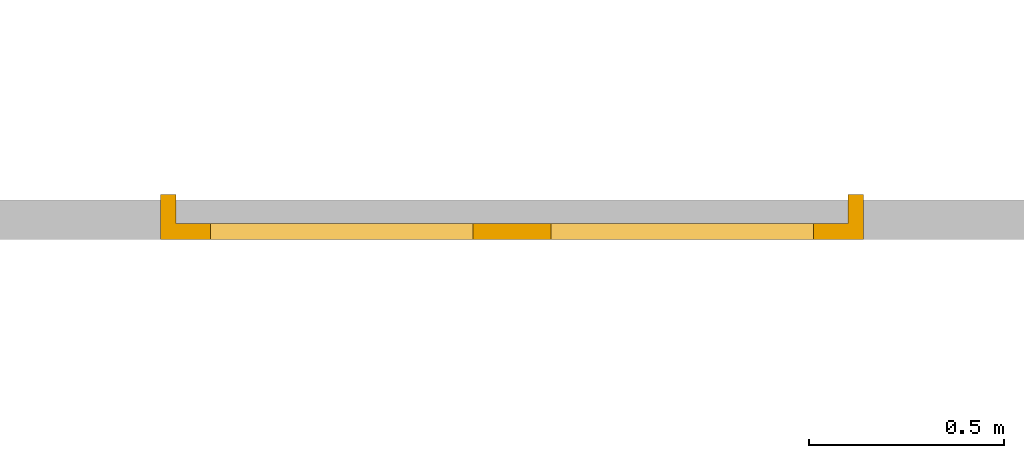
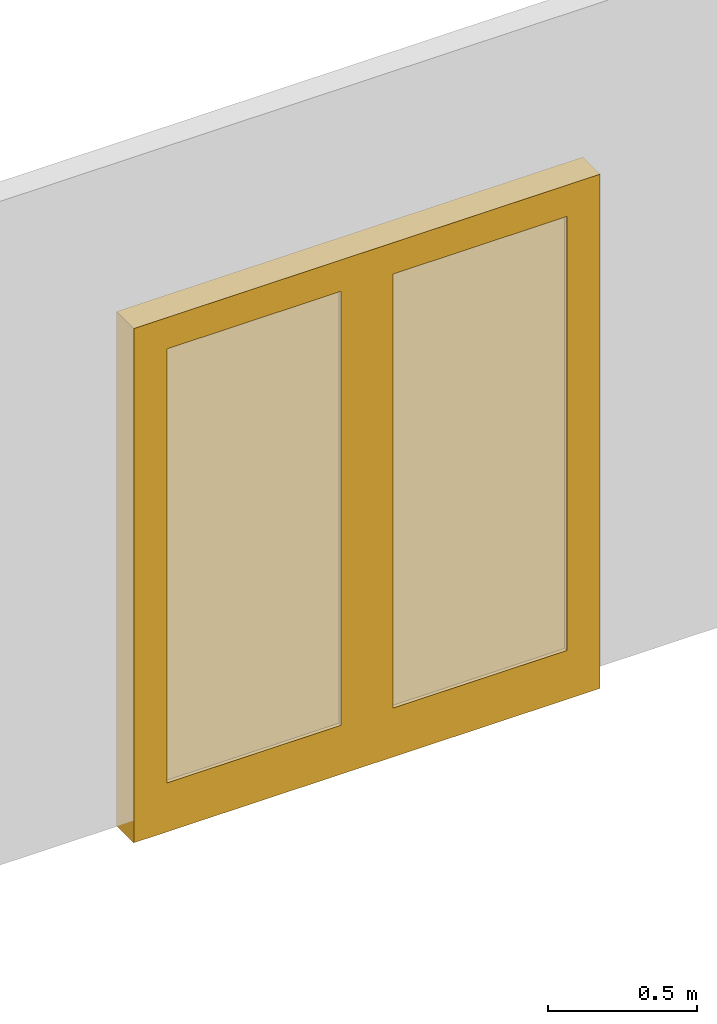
# One storey, part 9 of 22: 1 door.
"""IFC2X3 building model written with IfcOpenShell, lengths in millimetres."""

from ifc_helpers import new_model, entity, si_unit, converted_unit, derived_unit, direction, frame, origin, place, context, subcontext, project, spatial, face_set, surface_model, source, transform, mapped, material, material_list, type_object, type_shapes, element, save


model = new_model("IFC2X3")

# Units and contexts
model_context = context("Model", 3, precision=0.01, world=origin(), true_north=direction((6.12303176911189e-17, 1.0)))
body_context = subcontext(model_context, "Body", "Model", "MODEL_VIEW")
ifc_project = project(units=[si_unit("LENGTHUNIT", "METRE", prefix="MILLI"), si_unit("AREAUNIT", "SQUARE_METRE"), si_unit("VOLUMEUNIT", "CUBIC_METRE"), converted_unit("PLANEANGLEUNIT", "DEGREE", entity("IfcRatioMeasure", 0.0174532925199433), si_unit("PLANEANGLEUNIT", "RADIAN"), dimensions=[0, 0, 0, 0, 0, 0, 0]), si_unit("MASSUNIT", "GRAM", prefix="KILO"), derived_unit("MASSDENSITYUNIT", [(si_unit("MASSUNIT", "GRAM", prefix="KILO"), 1), (si_unit("LENGTHUNIT", "METRE"), -3)]), si_unit("TIMEUNIT", "SECOND"), si_unit("FREQUENCYUNIT", "HERTZ"), si_unit("THERMODYNAMICTEMPERATUREUNIT", "DEGREE_CELSIUS"), derived_unit("THERMALTRANSMITTANCEUNIT", [(si_unit("MASSUNIT", "GRAM", prefix="KILO"), 1), (si_unit("THERMODYNAMICTEMPERATUREUNIT", "KELVIN"), -1), (si_unit("TIMEUNIT", "SECOND"), -3)]), derived_unit("VOLUMETRICFLOWRATEUNIT", [(si_unit("LENGTHUNIT", "METRE"), 3), (si_unit("TIMEUNIT", "SECOND"), -1)]), si_unit("ELECTRICCURRENTUNIT", "AMPERE"), si_unit("ELECTRICVOLTAGEUNIT", "VOLT"), si_unit("POWERUNIT", "WATT"), si_unit("FORCEUNIT", "NEWTON", prefix="KILO"), si_unit("ILLUMINANCEUNIT", "LUX"), si_unit("LUMINOUSFLUXUNIT", "LUMEN"), si_unit("LUMINOUSINTENSITYUNIT", "CANDELA"), derived_unit("USERDEFINED", [(si_unit("MASSUNIT", "GRAM", prefix="KILO"), -1), (si_unit("LENGTHUNIT", "METRE"), -2), (si_unit("TIMEUNIT", "SECOND"), 3), (si_unit("LUMINOUSFLUXUNIT", "LUMEN"), 1)]), derived_unit("LINEARVELOCITYUNIT", [(si_unit("LENGTHUNIT", "METRE"), 1), (si_unit("TIMEUNIT", "SECOND"), -1)]), si_unit("PRESSUREUNIT", "PASCAL"), derived_unit("USERDEFINED", [(si_unit("LENGTHUNIT", "METRE"), -2), (si_unit("MASSUNIT", "GRAM", prefix="KILO"), 1), (si_unit("TIMEUNIT", "SECOND"), -2)])], contexts=[model_context])

# Site, building, storey
site_placement = place(None, origin())
site = spatial("IfcSite", under=ifc_project, at=site_placement, Name="Default", CompositionType="ELEMENT")
building_placement = place(site_placement, origin())
building = spatial("IfcBuilding", under=site, at=building_placement, CompositionType="ELEMENT")
storey_placement = place(building_placement, frame((0.0, 0.0, -3000.0)))
storey = spatial("IfcBuildingStorey", under=building, at=storey_placement, Name="-2. Story", CompositionType="ELEMENT", Elevation=-3000.0)

# Door
ifc_material_1 = material(Name="Paint - Titanium White")
ifc_material_2 = material(Name="Glass - Clear Fast")
ifc_material_list_1 = material_list([ifc_material_1, ifc_material_2])
ifc_material_list_2 = material_list([ifc_material_1, ifc_material_2])
door_style = type_object("IfcDoorStyle", Name="DOO - 002", ConstructionType="NOTDEFINED", OperationType="DOUBLE_DOOR_SINGLE_SWING", ParameterTakesPrecedence=False, Sizeable=False, material=ifc_material_list_2)
shared_shape = source(origin(), body_context, "Body", "SurfaceModel", [
    surface_model("IfcFaceBasedSurfaceModel", [(101610.9898575, 74543.1569014, -3000.0), (101610.9898575, 74543.1569014, -940.0), (101610.9898575, 74618.1569014, -940.0), (101610.9898575, 74618.1569014, -3000.0), (101622.9898575, 74543.1569014, -940.0), (101610.9898575, 74543.1569014, -940.0), (101610.9898575, 74543.1569014, -3000.0), (101622.9898575, 74543.1569014, -3000.0), (101622.9898575, 74543.1569014, -940.0), (101622.9898575, 74503.1569014, -940.0), (101650.9898575, 74503.1569014, -940.0), (101650.9898575, 74618.1569014, -940.0), (101610.9898575, 74618.1569014, -940.0), (101610.9898575, 74543.1569014, -940.0), (101610.9898575, 74618.1569014, -3000.0), (101610.9898575, 74618.1569014, -940.0), (101650.9898575, 74618.1569014, -940.0), (101650.9898575, 74618.1569014, -3000.0), (101622.9898575, 74543.1569014, -3000.0), (101610.9898575, 74543.1569014, -3000.0), (101610.9898575, 74618.1569014, -3000.0), (101650.9898575, 74618.1569014, -3000.0), (101650.9898575, 74503.1569014, -3000.0), (101622.9898575, 74503.1569014, -3000.0), (101622.9898575, 74503.1569014, -940.0), (101622.9898575, 74543.1569014, -940.0), (101622.9898575, 74543.1569014, -3000.0), (101622.9898575, 74503.1569014, -3000.0), (101622.9898575, 74503.1569014, -940.0), (101622.9898575, 74503.1569014, -3000.0), (101650.9898575, 74503.1569014, -3000.0), (101650.9898575, 74503.1569014, -940.0), (101650.9898575, 74503.1569014, -3000.0), (101650.9898575, 74618.1569014, -3000.0), (101650.9898575, 74618.1569014, -940.0), (101650.9898575, 74503.1569014, -940.0), (99878.9898575, 74543.1569014, -940.0), (99890.9898575, 74543.1569014, -940.0), (99890.9898575, 74618.1569014, -940.0), (99850.9898575, 74618.1569014, -940.0), (99850.9898575, 74503.1569014, -940.0), (99878.9898575, 74503.1569014, -940.0), (99890.9898575, 74543.1569014, -940.0), (99878.9898575, 74543.1569014, -940.0), (99878.9898575, 74543.1569014, -3000.0), (99890.9898575, 74543.1569014, -3000.0), (99890.9898575, 74543.1569014, -940.0), (99890.9898575, 74543.1569014, -3000.0), (99890.9898575, 74618.1569014, -3000.0), (99890.9898575, 74618.1569014, -940.0), (99850.9898575, 74618.1569014, -940.0), (99890.9898575, 74618.1569014, -940.0), (99890.9898575, 74618.1569014, -3000.0), (99850.9898575, 74618.1569014, -3000.0), (99850.9898575, 74503.1569014, -940.0), (99850.9898575, 74618.1569014, -940.0), (99850.9898575, 74618.1569014, -3000.0), (99850.9898575, 74503.1569014, -3000.0), (99878.9898575, 74503.1569014, -3000.0), (99878.9898575, 74503.1569014, -940.0), (99850.9898575, 74503.1569014, -940.0), (99850.9898575, 74503.1569014, -3000.0), (99878.9898575, 74543.1569014, -940.0), (99878.9898575, 74503.1569014, -940.0), (99878.9898575, 74503.1569014, -3000.0), (99878.9898575, 74543.1569014, -3000.0), (99878.9898575, 74543.1569014, -3000.0), (99878.9898575, 74503.1569014, -3000.0), (99850.9898575, 74503.1569014, -3000.0), (99850.9898575, 74618.1569014, -3000.0), (99890.9898575, 74618.1569014, -3000.0), (99890.9898575, 74543.1569014, -3000.0), (101622.9898575, 74503.1569014, -928.0), (101622.9898575, 74503.1569014, -940.0), (101650.9898575, 74503.1569014, -940.0), (101650.9898575, 74503.1569014, -900.0), (99850.9898575, 74503.1569014, -900.0), (99850.9898575, 74503.1569014, -940.0), (99878.9898575, 74503.1569014, -940.0), (99878.9898575, 74503.1569014, -928.0), (101622.9898575, 74503.1569014, -940.0), (101622.9898575, 74503.1569014, -928.0), (101622.9898575, 74543.1569014, -928.0), (101622.9898575, 74543.1569014, -940.0), (101622.9898575, 74543.1569014, -940.0), (101610.9898575, 74543.1569014, -940.0), (101610.9898575, 74618.1569014, -940.0), (101650.9898575, 74618.1569014, -940.0), (101650.9898575, 74503.1569014, -940.0), (101622.9898575, 74503.1569014, -940.0), (101650.9898575, 74503.1569014, -940.0), (101650.9898575, 74618.1569014, -940.0), (101650.9898575, 74618.1569014, -900.0), (101650.9898575, 74503.1569014, -900.0), (101650.9898575, 74503.1569014, -900.0), (101650.9898575, 74618.1569014, -900.0), (99850.9898575, 74618.1569014, -900.0), (99850.9898575, 74503.1569014, -900.0), (99850.9898575, 74503.1569014, -900.0), (99850.9898575, 74618.1569014, -900.0), (99850.9898575, 74618.1569014, -940.0), (99850.9898575, 74503.1569014, -940.0), (99878.9898575, 74543.1569014, -940.0), (99878.9898575, 74503.1569014, -940.0), (99850.9898575, 74503.1569014, -940.0), (99850.9898575, 74618.1569014, -940.0), (99890.9898575, 74618.1569014, -940.0), (99890.9898575, 74543.1569014, -940.0), (99878.9898575, 74503.1569014, -928.0), (99878.9898575, 74503.1569014, -940.0), (99878.9898575, 74543.1569014, -940.0), (99878.9898575, 74543.1569014, -928.0), (101622.9898575, 74503.1569014, -928.0), (99878.9898575, 74503.1569014, -928.0), (99878.9898575, 74543.1569014, -928.0), (101622.9898575, 74543.1569014, -928.0), (99878.9898575, 74543.1569014, -940.0), (99890.9898575, 74543.1569014, -940.0), (101610.9898575, 74543.1569014, -940.0), (101622.9898575, 74543.1569014, -940.0), (101622.9898575, 74543.1569014, -928.0), (99878.9898575, 74543.1569014, -928.0), (101610.9898575, 74543.1569014, -940.0), (99890.9898575, 74543.1569014, -940.0), (99890.9898575, 74618.1569014, -940.0), (101610.9898575, 74618.1569014, -940.0), (99890.9898575, 74618.1569014, -940.0), (99850.9898575, 74618.1569014, -940.0), (99850.9898575, 74618.1569014, -900.0), (101650.9898575, 74618.1569014, -900.0), (101650.9898575, 74618.1569014, -940.0), (101610.9898575, 74618.1569014, -940.0), (99878.9898575, 74503.1569014, -2800.0), (99878.9898575, 74543.1569014, -2800.0), (99978.9898575, 74543.1569014, -2800.0), (99978.9898575, 74503.1569014, -2800.0), (99878.9898575, 74503.1569014, -1028.0), (99878.9898575, 74543.1569014, -1028.0), (99878.9898575, 74543.1569014, -2800.0), (99878.9898575, 74503.1569014, -2800.0), (99878.9898575, 74543.1569014, -2800.0), (99878.9898575, 74543.1569014, -1028.0), (99978.9898575, 74543.1569014, -1028.0), (99978.9898575, 74543.1569014, -2800.0), (99978.9898575, 74503.1569014, -2800.0), (99978.9898575, 74543.1569014, -2800.0), (99978.9898575, 74543.1569014, -1028.0), (99978.9898575, 74503.1569014, -1028.0), (99878.9898575, 74503.1569014, -2800.0), (99978.9898575, 74503.1569014, -2800.0), (99978.9898575, 74503.1569014, -1028.0), (99878.9898575, 74503.1569014, -1028.0), (99978.9898575, 74503.1569014, -1028.0), (99978.9898575, 74543.1569014, -1028.0), (99878.9898575, 74543.1569014, -1028.0), (99878.9898575, 74503.1569014, -1028.0), (100750.9898575, 74503.1569014, -2800.0), (100750.9898575, 74543.1569014, -2800.0), (100750.9898575, 74543.1569014, -1028.0), (100750.9898575, 74503.1569014, -1028.0), (100650.9898575, 74503.1569014, -2800.0), (100650.9898575, 74543.1569014, -2800.0), (100750.9898575, 74543.1569014, -2800.0), (100750.9898575, 74503.1569014, -2800.0), (100750.9898575, 74543.1569014, -2800.0), (100650.9898575, 74543.1569014, -2800.0), (100650.9898575, 74543.1569014, -1028.0), (100750.9898575, 74543.1569014, -1028.0), (100750.9898575, 74503.1569014, -1028.0), (100750.9898575, 74543.1569014, -1028.0), (100650.9898575, 74543.1569014, -1028.0), (100650.9898575, 74503.1569014, -1028.0), (100750.9898575, 74503.1569014, -2800.0), (100750.9898575, 74503.1569014, -1028.0), (100650.9898575, 74503.1569014, -1028.0), (100650.9898575, 74503.1569014, -2800.0), (100650.9898575, 74503.1569014, -1028.0), (100650.9898575, 74543.1569014, -1028.0), (100650.9898575, 74543.1569014, -2800.0), (100650.9898575, 74503.1569014, -2800.0), (99878.9898575, 74503.1569014, -3000.0), (99878.9898575, 74543.1569014, -3000.0), (100750.9898575, 74543.1569014, -3000.0), (100750.9898575, 74503.1569014, -3000.0), (99878.9898575, 74503.1569014, -2800.0), (99878.9898575, 74543.1569014, -2800.0), (99878.9898575, 74543.1569014, -3000.0), (99878.9898575, 74503.1569014, -3000.0), (99878.9898575, 74543.1569014, -3000.0), (99878.9898575, 74543.1569014, -2800.0), (99978.9898575, 74543.1569014, -2800.0), (100650.9898575, 74543.1569014, -2800.0), (100750.9898575, 74543.1569014, -2800.0), (100750.9898575, 74543.1569014, -3000.0), (100750.9898575, 74503.1569014, -3000.0), (100750.9898575, 74543.1569014, -3000.0), (100750.9898575, 74543.1569014, -2800.0), (100750.9898575, 74503.1569014, -2800.0), (99878.9898575, 74503.1569014, -3000.0), (100750.9898575, 74503.1569014, -3000.0), (100750.9898575, 74503.1569014, -2800.0), (100650.9898575, 74503.1569014, -2800.0), (99978.9898575, 74503.1569014, -2800.0), (99878.9898575, 74503.1569014, -2800.0), (99978.9898575, 74503.1569014, -2800.0), (99978.9898575, 74543.1569014, -2800.0), (99878.9898575, 74543.1569014, -2800.0), (99878.9898575, 74503.1569014, -2800.0), (100650.9898575, 74503.1569014, -2800.0), (100650.9898575, 74543.1569014, -2800.0), (99978.9898575, 74543.1569014, -2800.0), (99978.9898575, 74503.1569014, -2800.0), (100750.9898575, 74503.1569014, -2800.0), (100750.9898575, 74543.1569014, -2800.0), (100650.9898575, 74543.1569014, -2800.0), (100650.9898575, 74503.1569014, -2800.0), (99878.9898575, 74503.1569014, -928.0), (99878.9898575, 74543.1569014, -928.0), (99878.9898575, 74543.1569014, -1028.0), (99878.9898575, 74503.1569014, -1028.0), (100750.9898575, 74503.1569014, -928.0), (100750.9898575, 74543.1569014, -928.0), (99878.9898575, 74543.1569014, -928.0), (99878.9898575, 74503.1569014, -928.0), (99878.9898575, 74543.1569014, -928.0), (100750.9898575, 74543.1569014, -928.0), (100750.9898575, 74543.1569014, -1028.0), (100650.9898575, 74543.1569014, -1028.0), (99978.9898575, 74543.1569014, -1028.0), (99878.9898575, 74543.1569014, -1028.0), (99878.9898575, 74503.1569014, -1028.0), (99878.9898575, 74543.1569014, -1028.0), (99978.9898575, 74543.1569014, -1028.0), (99978.9898575, 74503.1569014, -1028.0), (99878.9898575, 74503.1569014, -928.0), (99878.9898575, 74503.1569014, -1028.0), (99978.9898575, 74503.1569014, -1028.0), (100650.9898575, 74503.1569014, -1028.0), (100750.9898575, 74503.1569014, -1028.0), (100750.9898575, 74503.1569014, -928.0), (100750.9898575, 74503.1569014, -1028.0), (100750.9898575, 74543.1569014, -1028.0), (100750.9898575, 74543.1569014, -928.0), (100750.9898575, 74503.1569014, -928.0), (100650.9898575, 74503.1569014, -1028.0), (100650.9898575, 74543.1569014, -1028.0), (100750.9898575, 74543.1569014, -1028.0), (100750.9898575, 74503.1569014, -1028.0), (99978.9898575, 74503.1569014, -1028.0), (99978.9898575, 74543.1569014, -1028.0), (100650.9898575, 74543.1569014, -1028.0), (100650.9898575, 74503.1569014, -1028.0), (101622.9898575, 74503.1569014, -2800.0), (101522.9898575, 74503.1569014, -2800.0), (101522.9898575, 74543.1569014, -2800.0), (101622.9898575, 74543.1569014, -2800.0), (101622.9898575, 74503.1569014, -2800.0), (101622.9898575, 74503.1569014, -1028.0), (101522.9898575, 74503.1569014, -1028.0), (101522.9898575, 74503.1569014, -2800.0), (101522.9898575, 74503.1569014, -2800.0), (101522.9898575, 74503.1569014, -1028.0), (101522.9898575, 74543.1569014, -1028.0), (101522.9898575, 74543.1569014, -2800.0), (101622.9898575, 74543.1569014, -2800.0), (101522.9898575, 74543.1569014, -2800.0), (101522.9898575, 74543.1569014, -1028.0), (101622.9898575, 74543.1569014, -1028.0), (101622.9898575, 74503.1569014, -1028.0), (101622.9898575, 74503.1569014, -2800.0), (101622.9898575, 74543.1569014, -2800.0), (101622.9898575, 74543.1569014, -1028.0), (101522.9898575, 74503.1569014, -1028.0), (101622.9898575, 74503.1569014, -1028.0), (101622.9898575, 74543.1569014, -1028.0), (101522.9898575, 74543.1569014, -1028.0), (100750.9898575, 74503.1569014, -2800.0), (100750.9898575, 74503.1569014, -1028.0), (100750.9898575, 74543.1569014, -1028.0), (100750.9898575, 74543.1569014, -2800.0), (100750.9898575, 74503.1569014, -2800.0), (100850.9898575, 74503.1569014, -2800.0), (100850.9898575, 74503.1569014, -1028.0), (100750.9898575, 74503.1569014, -1028.0), (100750.9898575, 74503.1569014, -1028.0), (100850.9898575, 74503.1569014, -1028.0), (100850.9898575, 74543.1569014, -1028.0), (100750.9898575, 74543.1569014, -1028.0), (100750.9898575, 74543.1569014, -2800.0), (100750.9898575, 74543.1569014, -1028.0), (100850.9898575, 74543.1569014, -1028.0), (100850.9898575, 74543.1569014, -2800.0), (100850.9898575, 74503.1569014, -2800.0), (100750.9898575, 74503.1569014, -2800.0), (100750.9898575, 74543.1569014, -2800.0), (100850.9898575, 74543.1569014, -2800.0), (100850.9898575, 74503.1569014, -1028.0), (100850.9898575, 74503.1569014, -2800.0), (100850.9898575, 74543.1569014, -2800.0), (100850.9898575, 74543.1569014, -1028.0), (101622.9898575, 74503.1569014, -3000.0), (100750.9898575, 74503.1569014, -3000.0), (100750.9898575, 74543.1569014, -3000.0), (101622.9898575, 74543.1569014, -3000.0), (101622.9898575, 74503.1569014, -3000.0), (101622.9898575, 74503.1569014, -2800.0), (101522.9898575, 74503.1569014, -2800.0), (100850.9898575, 74503.1569014, -2800.0), (100750.9898575, 74503.1569014, -2800.0), (100750.9898575, 74503.1569014, -3000.0), (100750.9898575, 74503.1569014, -3000.0), (100750.9898575, 74503.1569014, -2800.0), (100750.9898575, 74543.1569014, -2800.0), (100750.9898575, 74543.1569014, -3000.0), (101622.9898575, 74543.1569014, -3000.0), (100750.9898575, 74543.1569014, -3000.0), (100750.9898575, 74543.1569014, -2800.0), (100850.9898575, 74543.1569014, -2800.0), (101522.9898575, 74543.1569014, -2800.0), (101622.9898575, 74543.1569014, -2800.0), (101622.9898575, 74503.1569014, -2800.0), (101622.9898575, 74503.1569014, -3000.0), (101622.9898575, 74543.1569014, -3000.0), (101622.9898575, 74543.1569014, -2800.0), (101522.9898575, 74503.1569014, -2800.0), (101622.9898575, 74503.1569014, -2800.0), (101622.9898575, 74543.1569014, -2800.0), (101522.9898575, 74543.1569014, -2800.0), (100850.9898575, 74503.1569014, -2800.0), (101522.9898575, 74503.1569014, -2800.0), (101522.9898575, 74543.1569014, -2800.0), (100850.9898575, 74543.1569014, -2800.0), (100750.9898575, 74503.1569014, -2800.0), (100850.9898575, 74503.1569014, -2800.0), (100850.9898575, 74543.1569014, -2800.0), (100750.9898575, 74543.1569014, -2800.0), (101622.9898575, 74503.1569014, -928.0), (101622.9898575, 74503.1569014, -1028.0), (101622.9898575, 74543.1569014, -1028.0), (101622.9898575, 74543.1569014, -928.0), (101622.9898575, 74503.1569014, -928.0), (100750.9898575, 74503.1569014, -928.0), (100750.9898575, 74503.1569014, -1028.0), (100850.9898575, 74503.1569014, -1028.0), (101522.9898575, 74503.1569014, -1028.0), (101622.9898575, 74503.1569014, -1028.0), (101622.9898575, 74503.1569014, -1028.0), (101522.9898575, 74503.1569014, -1028.0), (101522.9898575, 74543.1569014, -1028.0), (101622.9898575, 74543.1569014, -1028.0), (101622.9898575, 74543.1569014, -928.0), (101622.9898575, 74543.1569014, -1028.0), (101522.9898575, 74543.1569014, -1028.0), (100850.9898575, 74543.1569014, -1028.0), (100750.9898575, 74543.1569014, -1028.0), (100750.9898575, 74543.1569014, -928.0), (100750.9898575, 74503.1569014, -928.0), (101622.9898575, 74503.1569014, -928.0), (101622.9898575, 74543.1569014, -928.0), (100750.9898575, 74543.1569014, -928.0), (100750.9898575, 74503.1569014, -1028.0), (100750.9898575, 74503.1569014, -928.0), (100750.9898575, 74543.1569014, -928.0), (100750.9898575, 74543.1569014, -1028.0), (100850.9898575, 74503.1569014, -1028.0), (100750.9898575, 74503.1569014, -1028.0), (100750.9898575, 74543.1569014, -1028.0), (100850.9898575, 74543.1569014, -1028.0), (101522.9898575, 74503.1569014, -1028.0), (100850.9898575, 74503.1569014, -1028.0), (100850.9898575, 74543.1569014, -1028.0), (101522.9898575, 74543.1569014, -1028.0)], [face_set([[[0, 1, 2, 3]]]), face_set([[[4, 5, 6, 7]]]), face_set([[[8, 9, 10, 11, 12, 13]]]), face_set([[[14, 15, 16, 17]]]), face_set([[[18, 19, 20, 21, 22, 23]]]), face_set([[[24, 25, 26, 27]]]), face_set([[[28, 29, 30, 31]]]), face_set([[[32, 33, 34, 35]]]), face_set([[[36, 37, 38, 39, 40, 41]]]), face_set([[[42, 43, 44, 45]]]), face_set([[[46, 47, 48, 49]]]), face_set([[[50, 51, 52, 53]]]), face_set([[[54, 55, 56, 57]]]), face_set([[[58, 59, 60, 61]]]), face_set([[[62, 63, 64, 65]]]), face_set([[[66, 67, 68, 69, 70, 71]]]), face_set([[[72, 73, 74, 75, 76, 77, 78, 79]]]), face_set([[[80, 81, 82, 83]]]), face_set([[[84, 85, 86, 87, 88, 89]]]), face_set([[[90, 91, 92, 93]]]), face_set([[[94, 95, 96, 97]]]), face_set([[[98, 99, 100, 101]]]), face_set([[[102, 103, 104, 105, 106, 107]]]), face_set([[[108, 109, 110, 111]]]), face_set([[[112, 113, 114, 115]]]), face_set([[[116, 117, 118, 119, 120, 121]]]), face_set([[[122, 123, 124, 125]]]), face_set([[[126, 127, 128, 129, 130, 131]]]), face_set([[[132, 133, 134, 135]]]), face_set([[[136, 137, 138, 139]]]), face_set([[[140, 141, 142, 143]]]), face_set([[[144, 145, 146, 147]]]), face_set([[[148, 149, 150, 151]]]), face_set([[[152, 153, 154, 155]]]), face_set([[[156, 157, 158, 159]]]), face_set([[[160, 161, 162, 163]]]), face_set([[[164, 165, 166, 167]]]), face_set([[[168, 169, 170, 171]]]), face_set([[[172, 173, 174, 175]]]), face_set([[[176, 177, 178, 179]]]), face_set([[[180, 181, 182, 183]]]), face_set([[[184, 185, 186, 187]]]), face_set([[[188, 189, 190, 191, 192, 193]]]), face_set([[[194, 195, 196, 197]]]), face_set([[[198, 199, 200, 201, 202, 203]]]), face_set([[[204, 205, 206, 207]]]), face_set([[[208, 209, 210, 211]]]), face_set([[[212, 213, 214, 215]]]), face_set([[[216, 217, 218, 219]]]), face_set([[[220, 221, 222, 223]]]), face_set([[[224, 225, 226, 227, 228, 229]]]), face_set([[[230, 231, 232, 233]]]), face_set([[[234, 235, 236, 237, 238, 239]]]), face_set([[[240, 241, 242, 243]]]), face_set([[[244, 245, 246, 247]]]), face_set([[[248, 249, 250, 251]]]), face_set([[[252, 253, 254, 255]]]), face_set([[[256, 257, 258, 259]]]), face_set([[[260, 261, 262, 263]]]), face_set([[[264, 265, 266, 267]]]), face_set([[[268, 269, 270, 271]]]), face_set([[[272, 273, 274, 275]]]), face_set([[[276, 277, 278, 279]]]), face_set([[[280, 281, 282, 283]]]), face_set([[[284, 285, 286, 287]]]), face_set([[[288, 289, 290, 291]]]), face_set([[[292, 293, 294, 295]]]), face_set([[[296, 297, 298, 299]]]), face_set([[[300, 301, 302, 303]]]), face_set([[[304, 305, 306, 307, 308, 309]]]), face_set([[[310, 311, 312, 313]]]), face_set([[[314, 315, 316, 317, 318, 319]]]), face_set([[[320, 321, 322, 323]]]), face_set([[[324, 325, 326, 327]]]), face_set([[[328, 329, 330, 331]]]), face_set([[[332, 333, 334, 335]]]), face_set([[[336, 337, 338, 339]]]), face_set([[[340, 341, 342, 343, 344, 345]]]), face_set([[[346, 347, 348, 349]]]), face_set([[[350, 351, 352, 353, 354, 355]]]), face_set([[[356, 357, 358, 359]]]), face_set([[[360, 361, 362, 363]]]), face_set([[[364, 365, 366, 367]]]), face_set([[[368, 369, 370, 371]]])]),
    surface_model("IfcFaceBasedSurfaceModel", [(99978.9898575, 74517.1569014, -2800.0), (100650.9898575, 74517.1569014, -2800.0), (100650.9898575, 74517.1569014, -1028.0), (99978.9898575, 74517.1569014, -1028.0), (99978.9898575, 74529.1569014, -2800.0), (99978.9898575, 74529.1569014, -1028.0), (100650.9898575, 74529.1569014, -1028.0), (100650.9898575, 74529.1569014, -2800.0), (101522.9898575, 74517.1569014, -2800.0), (101522.9898575, 74517.1569014, -1028.0), (100850.9898575, 74517.1569014, -1028.0), (100850.9898575, 74517.1569014, -2800.0), (101522.9898575, 74529.1569014, -2800.0), (100850.9898575, 74529.1569014, -2800.0), (100850.9898575, 74529.1569014, -1028.0), (101522.9898575, 74529.1569014, -1028.0)], [face_set([[[0, 1, 2, 3]]]), face_set([[[4, 5, 6, 7]]]), face_set([[[8, 9, 10, 11]]]), face_set([[[12, 13, 14, 15]]])]),
])
type_shapes(door_style, [shared_shape])
door_placement = place(storey_placement, frame((0.0, 0.0, 3000.0)))
element("IfcDoor", 1, at=door_placement, inside=storey, type_object=door_style, material=ifc_material_list_1, Name="DOO - 002 1459265 2:DOO - 002 1459265 2", ObjectType="DOO - 002 1459265 2:DOO - 002 1459265 2", OverallHeight=0.0, OverallWidth=1800.00000000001, context=body_context, shape_type="MappedRepresentation", body=[
    mapped(shared_shape, transform((0.0, 0.0, 0.0), scale=1.0)),
])

save(model, "model.ifc")
